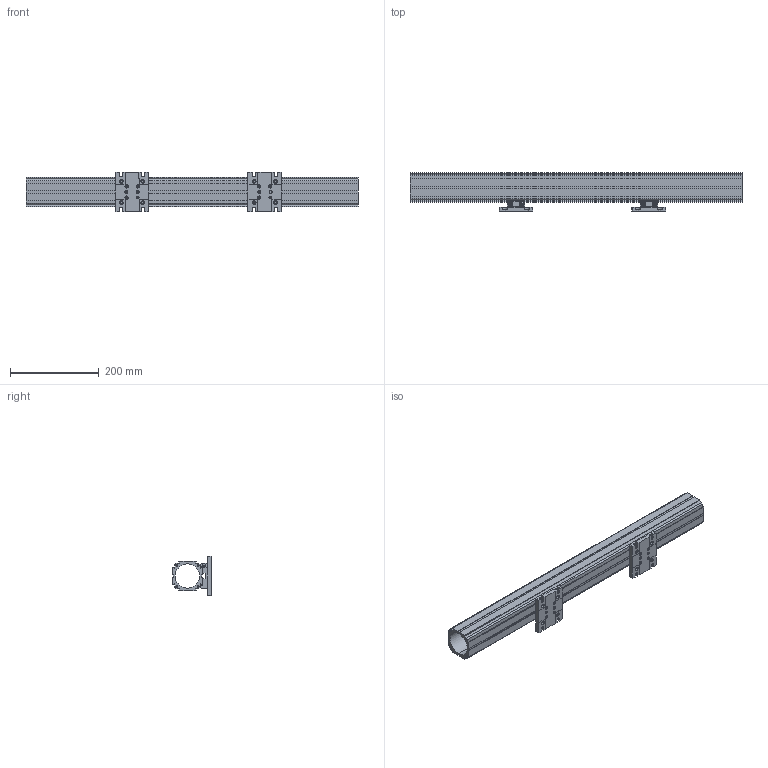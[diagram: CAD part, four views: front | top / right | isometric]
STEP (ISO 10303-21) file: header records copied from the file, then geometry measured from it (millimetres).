
FILE_DESCRIPTION((''),'2;1');
FILE_NAME('OPH-B750_ASM','2021-06-24T',('Administrator'),(''),'CREO PARAMETRIC BY PTC INC, 2015290','CREO PARAMETRIC BY PTC INC, 2015290','');
FILE_SCHEMA(('CONFIG_CONTROL_DESIGN'));
Products named in the file (8): M4X12_HP; WASHER_M4; OOP-MA_A1; OOP-MA_A2; OOP-MA_ASM; OPS-ML; OPH_A750; OPH-B750_ASM
Assembly tree (11 placements, depth 3):
  OPH-B750_ASM
    OOP-MA_ASM  x2
      M4X12_HP
      WASHER_M4
      OOP-MA_A1
      OOP-MA_A2
    OPS-ML  x2
    OPH_A750
Bounding box: 750 x 86.73 x 89.28 mm (x, y, z)
Volume: 1307942.2 mm3; surface area: 412649.5 mm2
Topology: 15 solids, 15 shells, 1262 faces, 3620 edges, 2312 vertices
Faces by surface type: cylinder 476, plane 322, bspline 312, cone 132, extrusion 12, sphere 8
Entity records: 52683 total; most frequent: CARTESIAN_POINT 34572, ORIENTED_EDGE 4340, DIRECTION 2766, EDGE_CURVE 2170, VERTEX_POINT 1403, VECTOR 1052, LINE 1049, AXIS2_PLACEMENT_3D 857
